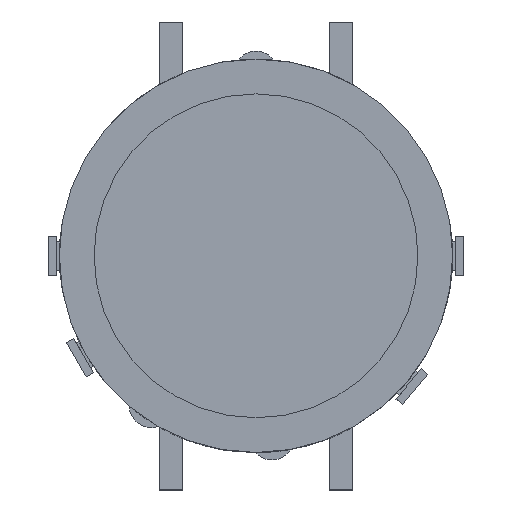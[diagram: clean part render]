
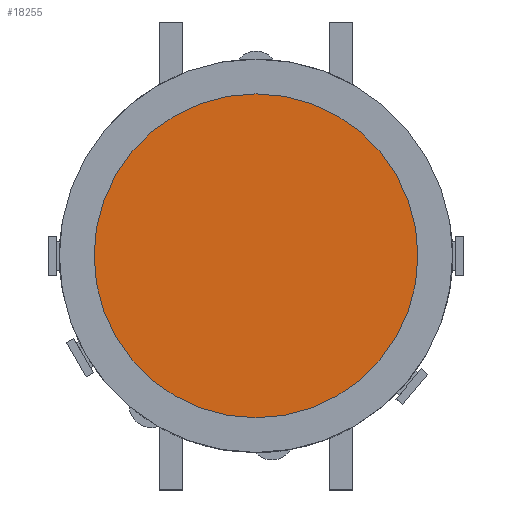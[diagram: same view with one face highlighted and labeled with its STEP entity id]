
A CAD part, top view. The second image highlights one B-rep face of the part: STEP entity #18255.
In plain terms, the highlighted planar face has unit normal (0, 0, 1).
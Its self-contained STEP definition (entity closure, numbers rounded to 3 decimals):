
#18170 = VERTEX_POINT('',#18171);
#18171 = CARTESIAN_POINT('',(25.5,0.,18.75));
#18178 = CYLINDRICAL_SURFACE('',#18179,25.5);
#18179 = AXIS2_PLACEMENT_3D('',#18180,#18181,#18182);
#18180 = CARTESIAN_POINT('',(0.,0.,12.75));
#18181 = DIRECTION('',(-0.,-0.,-1.));
#18182 = DIRECTION('',(1.,0.,0.));
#18197 = EDGE_CURVE('',#18170,#18170,#18198,.T.);
#18198 = SURFACE_CURVE('',#18199,(#18204,#18211),.PCURVE_S1.);
#18199 = CIRCLE('',#18200,25.5);
#18200 = AXIS2_PLACEMENT_3D('',#18201,#18202,#18203);
#18201 = CARTESIAN_POINT('',(0.,0.,18.75));
#18202 = DIRECTION('',(0.,0.,1.));
#18203 = DIRECTION('',(1.,0.,0.));
#18204 = PCURVE('',#18178,#18205);
#18205 = DEFINITIONAL_REPRESENTATION('',(#18206),#18210);
#18206 = LINE('',#18207,#18208);
#18207 = CARTESIAN_POINT('',(-0.,-6.));
#18208 = VECTOR('',#18209,1.);
#18209 = DIRECTION('',(-1.,0.));
#18210 = ( GEOMETRIC_REPRESENTATION_CONTEXT(2) 
PARAMETRIC_REPRESENTATION_CONTEXT() REPRESENTATION_CONTEXT('2D SPACE',''
  ) );
#18211 = PCURVE('',#18212,#18217);
#18212 = PLANE('',#18213);
#18213 = AXIS2_PLACEMENT_3D('',#18214,#18215,#18216);
#18214 = CARTESIAN_POINT('',(0.,0.,
    18.75));
#18215 = DIRECTION('',(0.,0.,1.));
#18216 = DIRECTION('',(1.,0.,-0.));
#18217 = DEFINITIONAL_REPRESENTATION('',(#18218),#18222);
#18218 = CIRCLE('',#18219,25.5);
#18219 = AXIS2_PLACEMENT_2D('',#18220,#18221);
#18220 = CARTESIAN_POINT('',(0.,0.));
#18221 = DIRECTION('',(1.,0.));
#18222 = ( GEOMETRIC_REPRESENTATION_CONTEXT(2) 
PARAMETRIC_REPRESENTATION_CONTEXT() REPRESENTATION_CONTEXT('2D SPACE',''
  ) );
#18255 = ADVANCED_FACE('',(#18256),#18212,.T.);
#18256 = FACE_BOUND('',#18257,.T.);
#18257 = EDGE_LOOP('',(#18258));
#18258 = ORIENTED_EDGE('',*,*,#18197,.T.);
